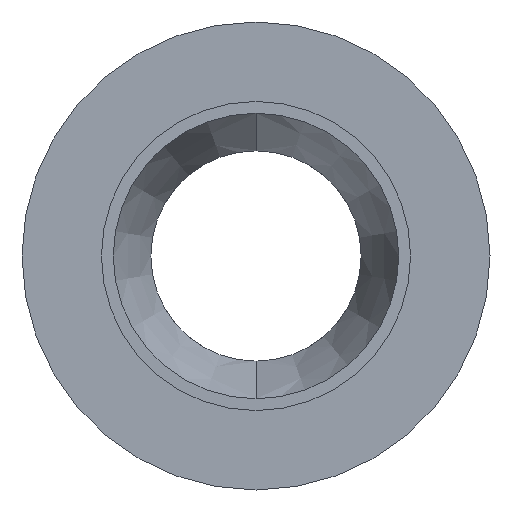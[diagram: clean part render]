
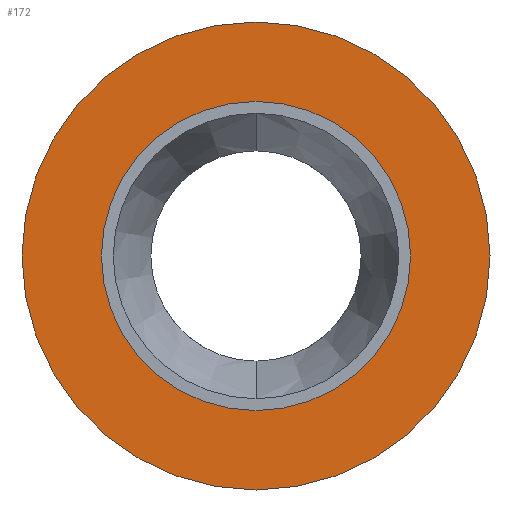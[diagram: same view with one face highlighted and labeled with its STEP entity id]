
A CAD part, front view. The second image highlights one B-rep face of the part: STEP entity #172.
In plain terms, the highlighted planar face has unit normal (0, -1, 0).
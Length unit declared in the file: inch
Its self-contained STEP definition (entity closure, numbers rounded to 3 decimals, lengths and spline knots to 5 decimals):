
#7 = AXIS2_PLACEMENT_3D ( 'NONE', #100, #288, #72 ) ;
#14 = CARTESIAN_POINT ( 'NONE',  ( 0., 0.15, -0.395 ) ) ;
#22 = EDGE_CURVE ( 'NONE', #342, #384, #118, .T. ) ;
#27 = DIRECTION ( 'NONE',  ( 0., 1., 0. ) ) ;
#47 = VERTEX_POINT ( 'NONE', #14 ) ;
#50 = DIRECTION ( 'NONE',  ( 0., 0., 1. ) ) ;
#52 = EDGE_LOOP ( 'NONE', ( #137, #273 ) ) ;
#65 = CARTESIAN_POINT ( 'NONE',  ( 0., 0.15, 0. ) ) ;
#70 = DIRECTION ( 'NONE',  ( 0., 1., 0. ) ) ;
#72 = DIRECTION ( 'NONE',  ( 0., 0., 1. ) ) ;
#75 = VERTEX_POINT ( 'NONE', #268 ) ;
#100 = CARTESIAN_POINT ( 'NONE',  ( 0., 0.15, 0. ) ) ;
#113 = AXIS2_PLACEMENT_3D ( 'NONE', #65, #27, #221 ) ;
#118 = CIRCLE ( 'NONE', #145, 0.261 ) ;
#123 = EDGE_CURVE ( 'NONE', #47, #75, #146, .T. ) ;
#132 = EDGE_CURVE ( 'NONE', #75, #47, #396, .T. ) ;
#137 = ORIENTED_EDGE ( 'NONE', *, *, #298, .T. ) ;
#145 = AXIS2_PLACEMENT_3D ( 'NONE', #400, #245, #50 ) ;
#146 = CIRCLE ( 'NONE', #394, 0.395 ) ;
#168 = CARTESIAN_POINT ( 'NONE',  ( 0., 0.15, 0. ) ) ;
#169 = DIRECTION ( 'NONE',  ( 0., 1., 0. ) ) ;
#172 = ADVANCED_FACE ( 'NONE', ( #293, #375 ), #228, .F. ) ;
#183 = CARTESIAN_POINT ( 'NONE',  ( 0., 0.15, -0.261 ) ) ;
#197 = CIRCLE ( 'NONE', #113, 0.261 ) ;
#221 = DIRECTION ( 'NONE',  ( 0., 0., 1. ) ) ;
#228 = PLANE ( 'NONE',  #251 ) ;
#245 = DIRECTION ( 'NONE',  ( 0., 1., 0. ) ) ;
#251 = AXIS2_PLACEMENT_3D ( 'NONE', #168, #70, #281 ) ;
#268 = CARTESIAN_POINT ( 'NONE',  ( 0., 0.15, 0.395 ) ) ;
#273 = ORIENTED_EDGE ( 'NONE', *, *, #22, .T. ) ;
#281 = DIRECTION ( 'NONE',  ( 0., 0., 1. ) ) ;
#288 = DIRECTION ( 'NONE',  ( 0., 1., 0. ) ) ;
#293 = FACE_BOUND ( 'NONE', #52, .T. ) ;
#298 = EDGE_CURVE ( 'NONE', #384, #342, #197, .T. ) ;
#333 = ORIENTED_EDGE ( 'NONE', *, *, #123, .F. ) ;
#335 = CARTESIAN_POINT ( 'NONE',  ( 0., 0.15, 0.261 ) ) ;
#342 = VERTEX_POINT ( 'NONE', #335 ) ;
#346 = DIRECTION ( 'NONE',  ( 0., 0., 1. ) ) ;
#354 = ORIENTED_EDGE ( 'NONE', *, *, #132, .F. ) ;
#375 = FACE_OUTER_BOUND ( 'NONE', #406, .T. ) ;
#380 = CARTESIAN_POINT ( 'NONE',  ( 0., 0.15, 0. ) ) ;
#384 = VERTEX_POINT ( 'NONE', #183 ) ;
#394 = AXIS2_PLACEMENT_3D ( 'NONE', #380, #169, #346 ) ;
#396 = CIRCLE ( 'NONE', #7, 0.395 ) ;
#400 = CARTESIAN_POINT ( 'NONE',  ( 0., 0.15, 0. ) ) ;
#406 = EDGE_LOOP ( 'NONE', ( #333, #354 ) ) ;
